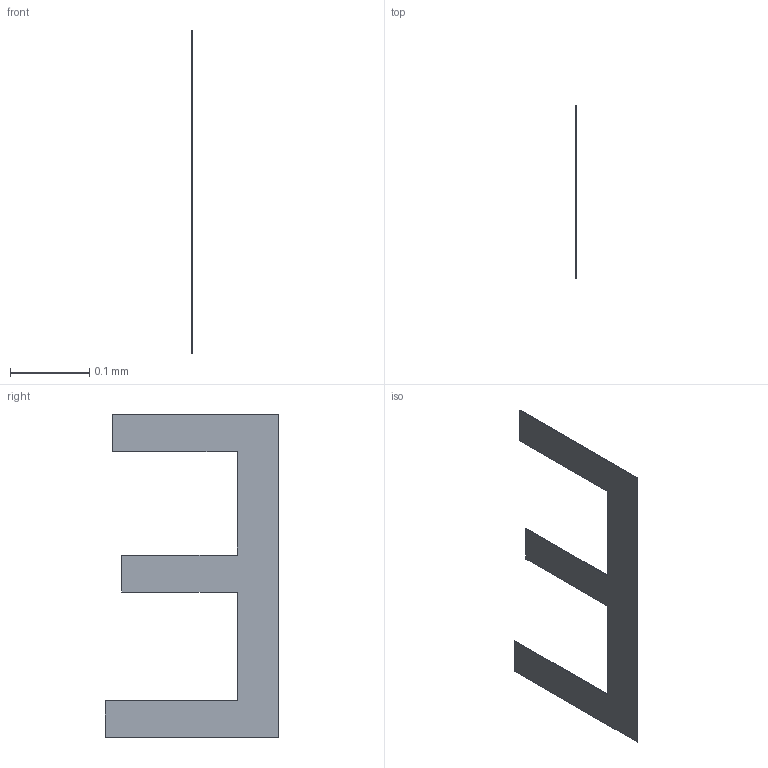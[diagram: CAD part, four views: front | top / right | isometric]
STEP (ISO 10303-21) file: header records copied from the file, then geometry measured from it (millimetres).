
FILE_DESCRIPTION(/* description */ ('STEP AP242 Edition 2','CAx-IF Rec.Pracs.---Representation and Presentation of Product Manufacturing Information (PMI)---4.0---2014-10-13','CAx-IF Rec.Pracs.---3D Tessellated Geometry---0.4---2014-09-14','2;1','CAx-IF Rec.Pracs.---User Defined Attributes---1.5---2016-08-15'),/* implementation_level */ '2;1');
FILE_NAME(/* name */ 'Assembly 1 - CONN-TH_HFBR-1521Z~CONN-TH_HFBR-1521Z~nxQB (1)',/* time_stamp */ '2026-04-02T09:55:12Z',/* author */ (''),/* organization */ (''),/* preprocessor_version */ 'ST-DEVELOPER v20',/* originating_system */ 'ONSHAPE BY PTC INC, 1.212',/* authorisation */ ' ');
FILE_SCHEMA (('AP242_MANAGED_MODEL_BASED_3D_ENGINEERING_MIM_LF { 1 0 10303 442 3 1 4 }'));
Length unit declared in the file: metre
Products named in the file (1): CONN-TH_HFBR-1521Z~CONN-TH_HFBR-1521Z~nxQB
Bounding box: 0 x 0.22 x 0.41 mm (x, y, z)
Volume: 0 mm3; surface area: 0.1 mm2
Topology: 1 solids, 1 shells, 14 faces, 36 edges, 24 vertices
Faces by surface type: plane 14
Entity records: 541 total; most frequent: CARTESIAN_POINT 75, ORIENTED_EDGE 72, DIRECTION 66, EDGE_CURVE 36, LINE 36, VECTOR 36, VERTEX_POINT 24, PRESENTATION_STYLE_ASSIGNMENT 15
